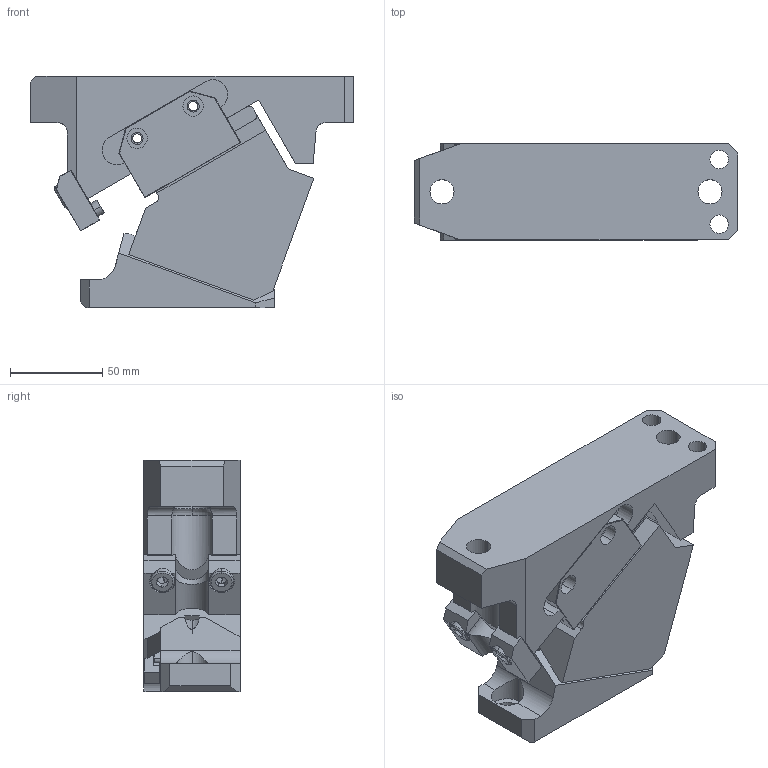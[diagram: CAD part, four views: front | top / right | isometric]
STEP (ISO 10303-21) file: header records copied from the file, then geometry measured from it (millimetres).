
FILE_DESCRIPTION (( 'STEP AP203' ), '1' );
FILE_NAME ('CLD052.20.step', '2014-05-05T08:34:24', ( '' ), ( '' ), 'SwSTEP 2.0', 'SolidWorks 2013', '' );
FILE_SCHEMA (( 'CONFIG_CONTROL_DESIGN' ));
Length unit declared in the file: millimetre
Products named in the file (4): CLD052.20; CLD05220-01 CAM BASE; CLD05220-02 CAM SLIDER; CLD05220-03 CAM DRIVER
Assembly tree (3 placements, depth 2):
  CLD052.20
    CLD05220-01 CAM BASE
    CLD05220-02 CAM SLIDER
    CLD05220-03 CAM DRIVER
Bounding box: 175 x 52 x 125 mm (x, y, z)
Volume: 663593.1 mm3; surface area: 114166.4 mm2
Topology: 3 solids, 7 shells, 381 faces, 985 edges, 622 vertices
Faces by surface type: plane 236, cylinder 120, cone 14, torus 11
Entity records: 12098 total; most frequent: CARTESIAN_POINT 2331, DIRECTION 1960, ORIENTED_EDGE 1950, EDGE_CURVE 975, AXIS2_PLACEMENT_3D 657, VECTOR 646, LINE 646, VERTEX_POINT 622
